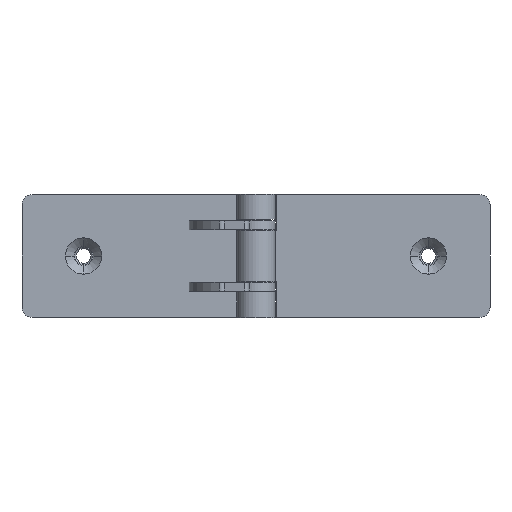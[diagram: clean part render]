
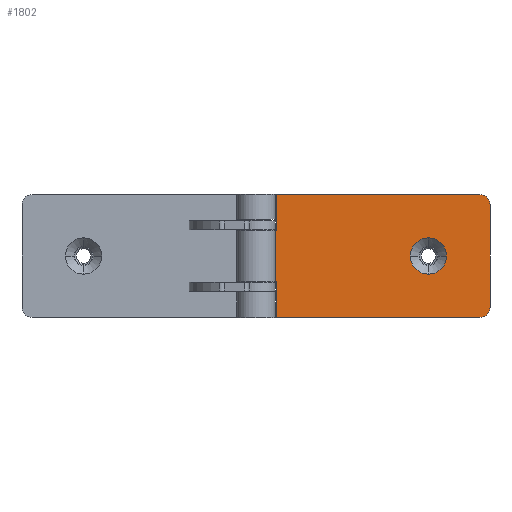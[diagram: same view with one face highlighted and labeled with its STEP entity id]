
A CAD part, front view. The second image highlights one B-rep face of the part: STEP entity #1802.
In plain terms, the highlighted planar face has unit normal (0, -1, 0) as drawn and (0, 1, 0) by its records, which use the part's own axes.
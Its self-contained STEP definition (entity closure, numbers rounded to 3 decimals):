
#210=CARTESIAN_POINT('',(-12.35,-3.,49.0));
#211=VERTEX_POINT('',#210);
#227=CARTESIAN_POINT('',(-17.5,-3.,54.15));
#228=VERTEX_POINT('',#227);
#235=CARTESIAN_POINT('',(-17.5,-3.,49.0));
#236=DIRECTION('',(0.0,-1.0,0.0));
#237=DIRECTION('',(0.0,0.0,-1.0));
#238=AXIS2_PLACEMENT_3D('',#235,#236,#237);
#239=CIRCLE('',#238,5.15);
#240=EDGE_CURVE('',#211,#228,#239,.T.);
#252=CARTESIAN_POINT('',(-22.65,-3.,49.0));
#253=VERTEX_POINT('',#252);
#269=CARTESIAN_POINT('',(-17.5,-3.,43.85));
#270=VERTEX_POINT('',#269);
#277=CARTESIAN_POINT('',(-17.5,-3.,49.0));
#278=DIRECTION('',(0.0,-1.0,0.0));
#279=DIRECTION('',(0.0,0.0,-1.0));
#280=AXIS2_PLACEMENT_3D('',#277,#278,#279);
#281=CIRCLE('',#280,5.15);
#282=EDGE_CURVE('',#253,#270,#281,.T.);
#293=CARTESIAN_POINT('',(-17.5,-3.,49.0));
#294=DIRECTION('',(0.0,-1.0,0.0));
#295=DIRECTION('',(0.0,0.0,-1.0));
#296=AXIS2_PLACEMENT_3D('',#293,#294,#295);
#297=CIRCLE('',#296,5.15);
#298=EDGE_CURVE('',#228,#253,#297,.T.);
#761=CARTESIAN_POINT('',(-24.75,-3.0,0.));
#762=VERTEX_POINT('',#761);
#770=CARTESIAN_POINT('',(-10.25,-3.,0.));
#771=VERTEX_POINT('',#770);
#772=CARTESIAN_POINT('',(-10.25,-3.,0.));
#773=DIRECTION('',(-1.0,0.0,0.0));
#774=VECTOR('',#773,14.5);
#775=LINE('',#772,#774);
#776=EDGE_CURVE('',#771,#762,#775,.T.);
#1441=CARTESIAN_POINT('',(-24.75,-3.0,5.7));
#1442=VERTEX_POINT('',#1441);
#1443=CARTESIAN_POINT('',(-35.0,-3.,5.7));
#1444=VERTEX_POINT('',#1443);
#1445=CARTESIAN_POINT('',(-24.75,-3.0,5.7));
#1446=DIRECTION('',(-1.0,0.0,0.0));
#1447=VECTOR('',#1446,10.25);
#1448=LINE('',#1445,#1447);
#1449=EDGE_CURVE('',#1442,#1444,#1448,.T.);
#1481=CARTESIAN_POINT('',(-24.75,-3.0,0.));
#1482=DIRECTION('',(0.0,0.0,1.0));
#1483=VECTOR('',#1482,5.7);
#1484=LINE('',#1481,#1483);
#1485=EDGE_CURVE('',#762,#1442,#1484,.T.);
#1531=CARTESIAN_POINT('',(-35.0,-3.,63.5));
#1532=VERTEX_POINT('',#1531);
#1539=CARTESIAN_POINT('',(-35.0,-3.,5.7));
#1540=DIRECTION('',(0.0,0.0,1.0));
#1541=VECTOR('',#1540,57.8);
#1542=LINE('',#1539,#1541);
#1543=EDGE_CURVE('',#1444,#1532,#1542,.T.);
#1650=CARTESIAN_POINT('',(-10.25,-3.,5.7));
#1651=VERTEX_POINT('',#1650);
#1652=CARTESIAN_POINT('',(-10.25,-3.,5.7));
#1653=DIRECTION('',(0.0,0.0,-1.0));
#1654=VECTOR('',#1653,5.7);
#1655=LINE('',#1652,#1654);
#1656=EDGE_CURVE('',#1651,#771,#1655,.T.);
#1685=CARTESIAN_POINT('',(0.0,-3.0,5.7));
#1686=VERTEX_POINT('',#1685);
#1687=CARTESIAN_POINT('',(0.0,-3.0,5.7));
#1688=DIRECTION('',(-1.0,0.0,0.0));
#1689=VECTOR('',#1688,10.25);
#1690=LINE('',#1687,#1689);
#1691=EDGE_CURVE('',#1686,#1651,#1690,.T.);
#1722=CARTESIAN_POINT('',(-17.5,-3.,49.0));
#1723=DIRECTION('',(0.0,-1.0,0.0));
#1724=DIRECTION('',(0.0,0.0,-1.0));
#1725=AXIS2_PLACEMENT_3D('',#1722,#1723,#1724);
#1726=CIRCLE('',#1725,5.15);
#1727=EDGE_CURVE('',#270,#211,#1726,.T.);
#1740=CARTESIAN_POINT('',(-32.0,-3.0,66.5));
#1741=VERTEX_POINT('',#1740);
#1748=CARTESIAN_POINT('',(-32.0,-3.0,63.5));
#1749=DIRECTION('',(0.0,1.0,0.0));
#1750=DIRECTION('',(0.0,0.0,1.0));
#1751=AXIS2_PLACEMENT_3D('',#1748,#1749,#1750);
#1752=CIRCLE('',#1751,3.0);
#1753=EDGE_CURVE('',#1532,#1741,#1752,.T.);
#1759=CARTESIAN_POINT('',(1.75,-3.0,69.825));
#1760=DIRECTION('',(0.0,1.0,0.0));
#1761=DIRECTION('',(0.0,0.0,1.0));
#1762=AXIS2_PLACEMENT_3D('',#1759,#1760,#1761);
#1763=PLANE('',#1762);
#1764=ORIENTED_EDGE('',*,*,#1449,.T.);
#1765=ORIENTED_EDGE('',*,*,#1543,.T.);
#1766=ORIENTED_EDGE('',*,*,#1753,.T.);
#1767=CARTESIAN_POINT('',(-3.0,-3.,66.5));
#1768=VERTEX_POINT('',#1767);
#1769=CARTESIAN_POINT('',(-3.0,-3.,66.5));
#1770=DIRECTION('',(-1.0,0.0,0.0));
#1771=VECTOR('',#1770,29.0);
#1772=LINE('',#1769,#1771);
#1773=EDGE_CURVE('',#1768,#1741,#1772,.T.);
#1774=ORIENTED_EDGE('',*,*,#1773,.F.);
#1775=CARTESIAN_POINT('',(0.0,-3.0,63.5));
#1776=VERTEX_POINT('',#1775);
#1777=CARTESIAN_POINT('',(-3.0,-3.,63.5));
#1778=DIRECTION('',(0.0,1.0,0.0));
#1779=DIRECTION('',(0.0,0.0,1.0));
#1780=AXIS2_PLACEMENT_3D('',#1777,#1778,#1779);
#1781=CIRCLE('',#1780,3.0);
#1782=EDGE_CURVE('',#1768,#1776,#1781,.T.);
#1783=ORIENTED_EDGE('',*,*,#1782,.T.);
#1784=CARTESIAN_POINT('',(0.0,-3.0,5.7));
#1785=DIRECTION('',(0.0,0.0,1.0));
#1786=VECTOR('',#1785,57.8);
#1787=LINE('',#1784,#1786);
#1788=EDGE_CURVE('',#1686,#1776,#1787,.T.);
#1789=ORIENTED_EDGE('',*,*,#1788,.F.);
#1790=ORIENTED_EDGE('',*,*,#1691,.T.);
#1791=ORIENTED_EDGE('',*,*,#1656,.T.);
#1792=ORIENTED_EDGE('',*,*,#776,.T.);
#1793=ORIENTED_EDGE('',*,*,#1485,.T.);
#1794=EDGE_LOOP('',(#1764,#1765,#1766,#1774,#1783,#1789,#1790,#1791,#1792,#1793));
#1795=FACE_OUTER_BOUND('',#1794,.T.);
#1796=ORIENTED_EDGE('',*,*,#1727,.T.);
#1797=ORIENTED_EDGE('',*,*,#240,.T.);
#1798=ORIENTED_EDGE('',*,*,#298,.T.);
#1799=ORIENTED_EDGE('',*,*,#282,.T.);
#1800=EDGE_LOOP('',(#1796,#1797,#1798,#1799));
#1801=FACE_BOUND('',#1800,.T.);
#1802=ADVANCED_FACE('',(#1795,#1801),#1763,.T.);
